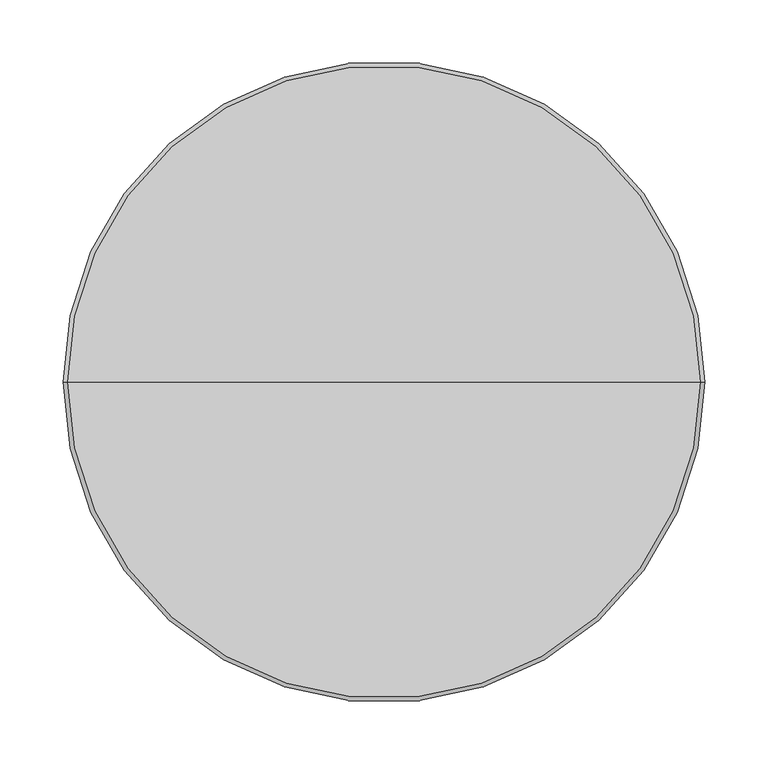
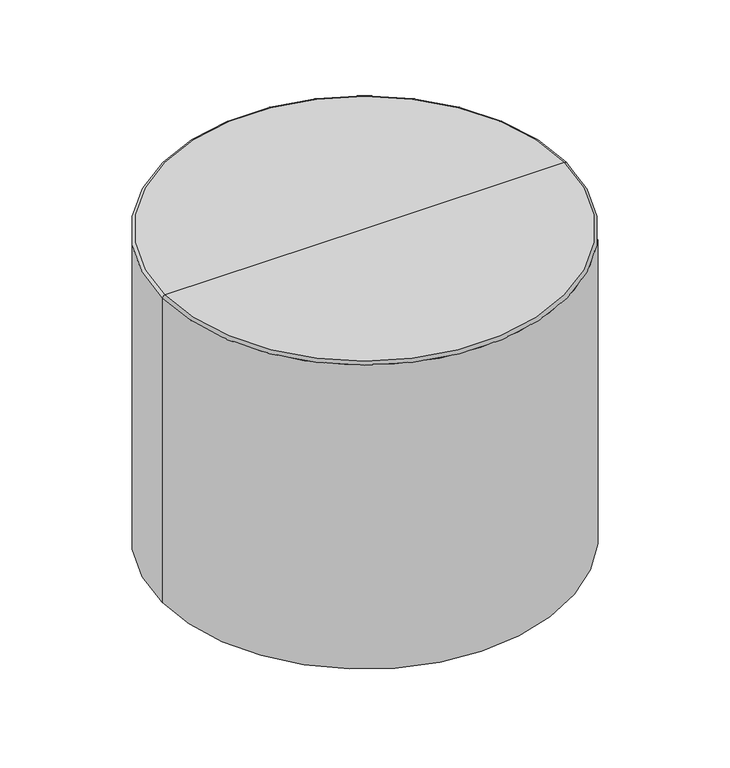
"""IFC4 building model written with IfcOpenShell, lengths in millimetres: furniture geometry, StanceHC-Drum_Table_Upholstered : DRT-20D-16-H."""

from ifc_helpers import new_model, si_unit, point, frame, frame_2d, origin, origin_with_axes, place, context, project, spatial, circle_curve, ellipse_curve, trimmed, segment, composite_curve, outline, extrude, source, transform, mapped, element, save
from ifc_brep_helpers import plane_surface, cylinder_surface, revolved_surface, advanced_brep


def furniture_49b2f2a2(model_context):
    return source(origin(), model_context, "Body", "SolidModel", [
        extrude(outline(composite_curve([segment(trimmed(circle_curve(frame_2d((0.0, 192.9664845)), 12.7), [point((-12.7, 192.9664845))], [point((12.7, 192.9664845))], False, "CARTESIAN"), True, "CONTINUOUS"), segment(trimmed(circle_curve(frame_2d((0.0, 192.9664845)), 12.7), [point((12.7, 192.9664845))], [point((-12.7, 192.9664845))], False, "CARTESIAN"), True, "CONTINUOUS")], self_intersect=False)), origin_with_axes(), (0.0, 0.0, 1.0), 4.7625),
        extrude(outline(composite_curve([segment(trimmed(circle_curve(frame_2d((0.0, -192.9664845)), 12.7), [point((-12.7, -192.9664845))], [point((12.7, -192.9664845))], False, "CARTESIAN"), True, "CONTINUOUS"), segment(trimmed(circle_curve(frame_2d((0.0, -192.9664845)), 12.7), [point((12.7, -192.9664845))], [point((-12.7, -192.9664845))], False, "CARTESIAN"), True, "CONTINUOUS")], self_intersect=False)), origin_with_axes(), (0.0, 0.0, 1.0), 4.7625),
        extrude(outline(composite_curve([segment(trimmed(circle_curve(frame_2d((196.8496404, 0.0)), 12.7), [point((184.1496404, 0.0))], [point((209.5496404, 0.0))], False, "CARTESIAN"), True, "CONTINUOUS"), segment(trimmed(circle_curve(frame_2d((196.8496404, 0.0)), 12.7), [point((209.5496404, 0.0))], [point((184.1496404, 0.0))], False, "CARTESIAN"), True, "CONTINUOUS")], self_intersect=False)), origin_with_axes(), (0.0, 0.0, 1.0), 4.7625),
        extrude(outline(composite_curve([segment(trimmed(circle_curve(frame_2d((-196.8496404, 0.0)), 12.7), [point((-209.5496404, 0.0))], [point((-184.1496404, 0.0))], False, "CARTESIAN"), True, "CONTINUOUS"), segment(trimmed(circle_curve(frame_2d((-196.8496404, 0.0)), 12.7), [point((-184.1496404, 0.0))], [point((-209.5496404, 0.0))], False, "CARTESIAN"), True, "CONTINUOUS")], self_intersect=False)), origin_with_axes(), (0.0, 0.0, 1.0), 4.7625),
        advanced_brep(
        [(-254.0, 0.0, 4.7625), (254.0, 0.0, 4.7625), (0.0, 0.0, 4.7625), (-254.0, 0.0, 408.0389933), (254.0, 0.0, 408.0389933), (-250.8764933, 0.0, 411.1625), (250.8764933, 0.0, 411.1625), (0.0, 0.0, 411.1625)],
        [
            (0, 1, circle_curve(frame((0.0, 0.0, 4.7625), z_axis=(0.0, 0.0, -1.0), x_axis=(1.0, 0.0, 0.0)), 254.0)),
            (1, 2),
            (2, 0),
            (1, 0, circle_curve(frame((0.0, 0.0, 4.7625), z_axis=(0.0, 0.0, -1.0), x_axis=(1.0, 0.0, 0.0)), 254.0)),
            (3, 4, circle_curve(frame((0.0, 0.0, 408.0389933), z_axis=(0.0, 0.0, -1.0), x_axis=(1.0, 0.0, 0.0)), 254.0)),
            (4, 1),
            (0, 3),
            (4, 3, circle_curve(frame((0.0, 0.0, 408.0389933), z_axis=(0.0, 0.0, -1.0), x_axis=(1.0, 0.0, 0.0)), 254.0)),
            (5, 6, circle_curve(frame((0.0, 0.0, 411.1625), z_axis=(0.0, 0.0, -1.0), x_axis=(1.0, 0.0, 0.0)), 250.8764933)),
            (6, 4, circle_curve(frame((250.8764933, 0.0, 408.0389933), z_axis=(0.0, 1.0, 0.0), x_axis=(1.0, 0.0, 0.0)), 3.1235067)),
            (3, 5, circle_curve(frame((-250.8764933, 0.0, 408.0389933), z_axis=(0.0, 1.0, 0.0), x_axis=(-1.0, 0.0, 0.0)), 3.1235067)),
            (6, 5, circle_curve(frame((0.0, 0.0, 411.1625), z_axis=(0.0, 0.0, -1.0), x_axis=(1.0, 0.0, 0.0)), 250.8764933)),
            (7, 6),
            (5, 7),
        ],
        [
            plane_surface(frame((0.0, 0.0, 4.7625), z_axis=(0.0, 0.0, -1.0), x_axis=(1.0, 0.0, 0.0))),
            cylinder_surface(frame((0.0, 0.0, 506.4125), z_axis=(0.0, 0.0, 1.0), x_axis=(1.0, 0.0, 0.0)), 254.0),
            revolved_surface(trimmed(ellipse_curve(frame((250.8764933, 0.0, 408.0389933), z_axis=(0.0, -1.0, 0.0), x_axis=(1.0, 0.0, 0.0)), 3.1235067, 3.1235067), [point((254.0, 0.0, 408.0389933))], [point((250.8764933, 0.0, 411.1625))], True, "CARTESIAN"), (0.0, 0.0, 506.4125), (0.0, 0.0, 1.0)),
            plane_surface(frame((0.0, 0.0, 411.1625), z_axis=(0.0, 0.0, 1.0), x_axis=(1.0, 0.0, 0.0))),
        ],
        [
            (0, [[1, 2, 3]]),
            (0, [[4, -3, -2]]),
            (1, [[5, 6, -1, 7]]),
            (1, [[8, -7, -4, -6]]),
            (2, [[9, 10, -5, 11]]),
            (2, [[12, -11, -8, -10]]),
            (3, [[13, -9, 14]]),
            (3, [[-14, -12, -13]]),
        ],
    ),
    ])


if __name__ == "__main__":
    model = new_model("IFC4")
    model_context = context("Model", 3, world=origin())
    ifc_project = project(units=[si_unit("LENGTHUNIT", "METRE", prefix="MILLI")], contexts=[model_context])
    site = spatial("IfcSite", under=ifc_project)
    building = spatial("IfcBuilding", under=site)
    placement = place(None, origin())
    furniture_shape = furniture_49b2f2a2(model_context)
    element("IfcFurniture", 1, ObjectType="StanceHC-Drum_Table_Upholstered : DRT-20D-16-H", at=placement, inside=building, context=model_context, shape_type="MappedRepresentation", body=[
        mapped(furniture_shape, transform((0.0, 0.0, 0.0), x_axis=(1.0, 0.0, 0.0), y_axis=(0.0, 1.0, 0.0), z_axis=(0.0, 0.0, 1.0))),
    ])
    save(model, "model.ifc")
